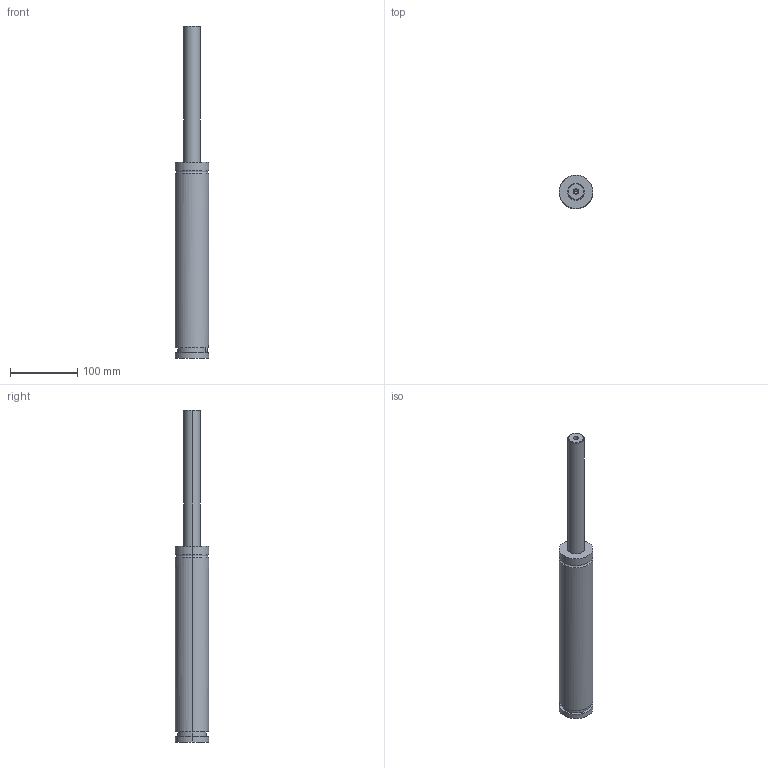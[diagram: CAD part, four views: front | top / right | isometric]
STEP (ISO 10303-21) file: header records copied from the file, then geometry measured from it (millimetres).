
FILE_DESCRIPTION(/* description */ (''),/* implementation_level */ '2;1');
FILE_NAME(/* name */ '3d_gse50-200_03879_r00.stp',/* time_stamp */ '2011-01-10T14:15:19+09:00',/* author */ ('MISUMI'),/* organization */ (''),/* preprocessor_version */ 'ST-DEVELOPER v11',/* originating_system */ 'UGS - NX 5.0',/* authorisation */ '');
FILE_SCHEMA (('CONFIG_CONTROL_DESIGN'));
Length unit declared in the file: millimetre
Products named in the file (1): 3d_gse50-200_03879_r00
Bounding box: 50 x 50 x 495 mm (x, y, z)
Volume: 665931.6 mm3; surface area: 68253.5 mm2
Topology: 1 solids, 1 shells, 57 faces, 125 edges, 79 vertices
Faces by surface type: cylinder 26, plane 21, cone 6, torus 4
Entity records: 1669 total; most frequent: DIRECTION 297, CARTESIAN_POINT 286, ORIENTED_EDGE 246, EDGE_CURVE 123, AXIS2_PLACEMENT_3D 122, VERTEX_POINT 79, EDGE_LOOP 68, CIRCLE 64
